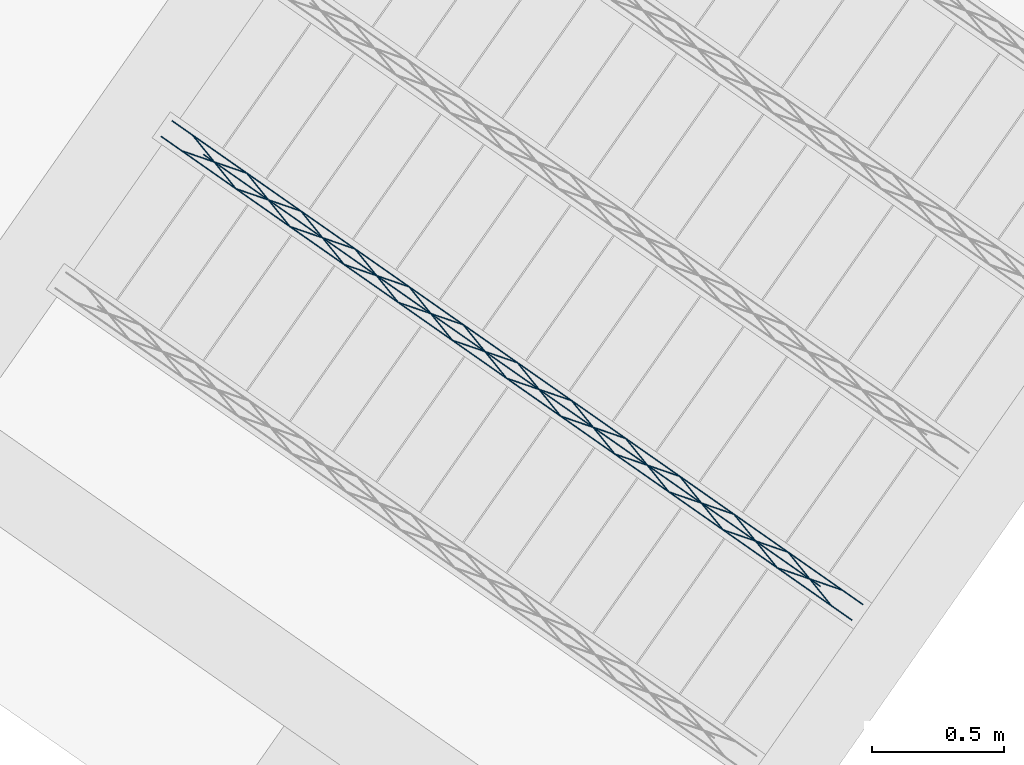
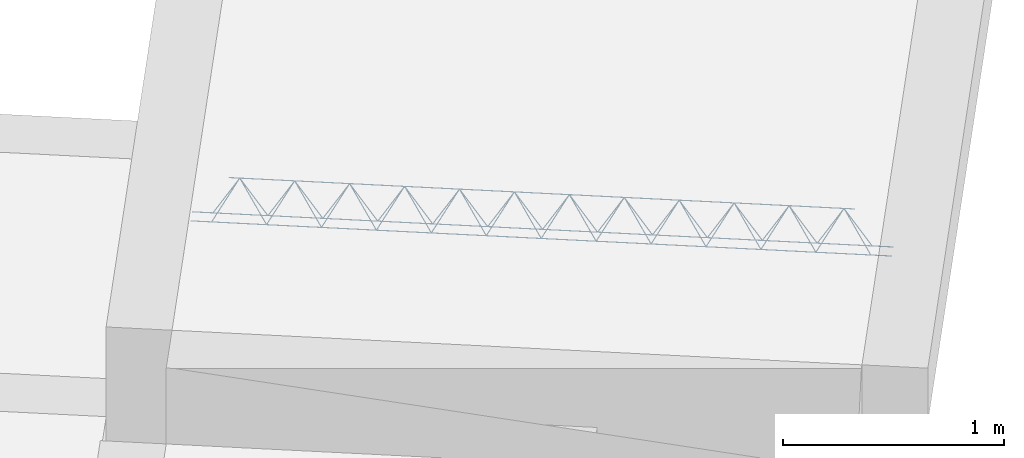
# One storey, part 21 of 46: 1 member.
"""IFC2X3 building model written with IfcOpenShell, lengths in metres."""

from ifc_helpers import new_model, entity, si_unit, converted_unit, derived_unit, direction, frame, origin, origin_2d_with_axis, place, context, subcontext, project, spatial, circle, extrude, type_object, element, save


model = new_model("IFC2X3")

# Units and contexts
model_context = context("Model", 3, precision=1e-05, world=origin(), true_north=direction((6.123031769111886e-17, 1.0)))
body_context = subcontext(model_context, "Body", "Model", "MODEL_VIEW")
ifc_project = project(units=[si_unit("LENGTHUNIT", "METRE"), si_unit("AREAUNIT", "SQUARE_METRE"), si_unit("VOLUMEUNIT", "CUBIC_METRE"), converted_unit("PLANEANGLEUNIT", "DEGREE", entity("IfcPlaneAngleMeasure", 0.017453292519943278), si_unit("PLANEANGLEUNIT", "RADIAN"), dimensions=[0, 0, 0, 0, 0, 0, 0]), si_unit("MASSUNIT", "GRAM", prefix="KILO"), derived_unit("MASSDENSITYUNIT", [(si_unit("MASSUNIT", "GRAM", prefix="KILO"), 1), (si_unit("LENGTHUNIT", "METRE"), -3)]), derived_unit("IONCONCENTRATIONUNIT", [(si_unit("MASSUNIT", "GRAM", prefix="KILO"), 1), (si_unit("LENGTHUNIT", "METRE"), -3)]), derived_unit("MOMENTOFINERTIAUNIT", [(si_unit("LENGTHUNIT", "METRE"), 4)]), si_unit("TIMEUNIT", "SECOND"), si_unit("FREQUENCYUNIT", "HERTZ"), si_unit("THERMODYNAMICTEMPERATUREUNIT", "DEGREE_CELSIUS"), derived_unit("THERMALTRANSMITTANCEUNIT", [(si_unit("MASSUNIT", "GRAM", prefix="KILO"), 1), (si_unit("THERMODYNAMICTEMPERATUREUNIT", "KELVIN"), -1), (si_unit("TIMEUNIT", "SECOND"), -3)]), derived_unit("THERMALCONDUCTANCEUNIT", [(si_unit("MASSUNIT", "GRAM", prefix="KILO"), 1), (si_unit("THERMODYNAMICTEMPERATUREUNIT", "KELVIN"), -1), (si_unit("TIMEUNIT", "SECOND"), -3), (si_unit("LENGTHUNIT", "METRE"), 1)]), derived_unit("VOLUMETRICFLOWRATEUNIT", [(si_unit("LENGTHUNIT", "METRE", prefix="DECI"), 3), (si_unit("TIMEUNIT", "SECOND"), -1)]), derived_unit("MASSFLOWRATEUNIT", [(si_unit("MASSUNIT", "GRAM", prefix="KILO"), 1), (si_unit("TIMEUNIT", "SECOND"), -1)]), derived_unit("ROTATIONALFREQUENCYUNIT", [(si_unit("TIMEUNIT", "SECOND"), -1)]), si_unit("ELECTRICCURRENTUNIT", "AMPERE"), si_unit("ELECTRICVOLTAGEUNIT", "VOLT"), si_unit("POWERUNIT", "WATT"), si_unit("FORCEUNIT", "NEWTON", prefix="KILO"), si_unit("ILLUMINANCEUNIT", "LUX"), si_unit("LUMINOUSFLUXUNIT", "LUMEN"), si_unit("LUMINOUSINTENSITYUNIT", "CANDELA"), si_unit("ENERGYUNIT", "JOULE"), derived_unit("USERDEFINED", [(si_unit("MASSUNIT", "GRAM", prefix="KILO"), -1), (si_unit("LENGTHUNIT", "METRE"), -2), (si_unit("TIMEUNIT", "SECOND"), 3), (si_unit("LUMINOUSFLUXUNIT", "LUMEN"), 1)]), derived_unit("USERDEFINED", [(si_unit("MASSUNIT", "GRAM", prefix="KILO"), 1), (si_unit("TIMEUNIT", "SECOND"), -3), (si_unit("LENGTHUNIT", "METRE"), 3), (si_unit("ELECTRICCURRENTUNIT", "AMPERE"), -2)]), derived_unit("SOUNDPOWERUNIT", [(si_unit("MASSUNIT", "GRAM", prefix="KILO"), 1), (si_unit("TIMEUNIT", "SECOND"), -3), (si_unit("LENGTHUNIT", "METRE"), 2)]), derived_unit("SOUNDPRESSUREUNIT", [(si_unit("MASSUNIT", "GRAM", prefix="KILO"), 1), (si_unit("LENGTHUNIT", "METRE"), -1), (si_unit("TIMEUNIT", "SECOND"), -2)]), derived_unit("LINEARVELOCITYUNIT", [(si_unit("LENGTHUNIT", "METRE"), 1), (si_unit("TIMEUNIT", "SECOND"), -1)]), si_unit("PRESSUREUNIT", "PASCAL"), derived_unit("USERDEFINED", [(si_unit("MASSUNIT", "GRAM", prefix="KILO"), 1), (si_unit("LENGTHUNIT", "METRE"), -2), (si_unit("TIMEUNIT", "SECOND"), -2)]), derived_unit("LINEARFORCEUNIT", [(si_unit("MASSUNIT", "GRAM", prefix="KILO"), 1), (si_unit("TIMEUNIT", "SECOND"), -2)]), derived_unit("PLANARFORCEUNIT", [(si_unit("MASSUNIT", "GRAM", prefix="KILO"), 1), (si_unit("LENGTHUNIT", "METRE"), -1), (si_unit("TIMEUNIT", "SECOND"), -2)]), derived_unit("SPECIFICHEATCAPACITYUNIT", [(si_unit("THERMODYNAMICTEMPERATUREUNIT", "KELVIN"), -1), (si_unit("LENGTHUNIT", "METRE"), 2), (si_unit("TIMEUNIT", "SECOND"), -2)]), derived_unit("HEATFLUXDENSITYUNIT", [(si_unit("MASSUNIT", "GRAM", prefix="KILO"), 1), (si_unit("TIMEUNIT", "SECOND"), -3)]), derived_unit("HEATINGVALUEUNIT", [(si_unit("LENGTHUNIT", "METRE"), 2), (si_unit("TIMEUNIT", "SECOND"), -2)]), derived_unit("VAPORPERMEABILITYUNIT", [(si_unit("LENGTHUNIT", "METRE"), -1), (si_unit("TIMEUNIT", "SECOND"), 1)]), derived_unit("DYNAMICVISCOSITYUNIT", [(si_unit("MASSUNIT", "GRAM", prefix="KILO"), 1), (si_unit("TIMEUNIT", "SECOND"), -1), (si_unit("LENGTHUNIT", "METRE"), -1)]), derived_unit("THERMALEXPANSIONCOEFFICIENTUNIT", [(si_unit("THERMODYNAMICTEMPERATUREUNIT", "KELVIN"), -1)]), derived_unit("MODULUSOFELASTICITYUNIT", [(si_unit("MASSUNIT", "GRAM", prefix="KILO"), 1), (si_unit("LENGTHUNIT", "METRE"), -1), (si_unit("TIMEUNIT", "SECOND"), -2)]), derived_unit("ISOTHERMALMOISTURECAPACITYUNIT", [(si_unit("MASSUNIT", "GRAM", prefix="KILO"), -1), (si_unit("LENGTHUNIT", "METRE"), 3)]), derived_unit("MOISTUREDIFFUSIVITYUNIT", [(si_unit("TIMEUNIT", "SECOND"), -1), (si_unit("LENGTHUNIT", "METRE"), 2)]), derived_unit("MASSPERLENGTHUNIT", [(si_unit("MASSUNIT", "GRAM", prefix="KILO"), 1), (si_unit("LENGTHUNIT", "METRE"), -1)]), derived_unit("THERMALRESISTANCEUNIT", [(si_unit("MASSUNIT", "GRAM", prefix="KILO"), -1), (si_unit("TIMEUNIT", "SECOND"), 3), (si_unit("THERMODYNAMICTEMPERATUREUNIT", "KELVIN"), 1)]), derived_unit("ACCELERATIONUNIT", [(si_unit("LENGTHUNIT", "METRE"), 1), (si_unit("TIMEUNIT", "SECOND"), -2)]), derived_unit("ANGULARVELOCITYUNIT", [(si_unit("TIMEUNIT", "SECOND"), -1), (si_unit("PLANEANGLEUNIT", "RADIAN"), 1)]), derived_unit("LINEARSTIFFNESSUNIT", [(si_unit("MASSUNIT", "GRAM", prefix="KILO"), 1), (si_unit("TIMEUNIT", "SECOND"), -2)]), derived_unit("WARPINGCONSTANTUNIT", [(si_unit("LENGTHUNIT", "METRE"), 6)]), derived_unit("LINEARMOMENTUNIT", [(si_unit("MASSUNIT", "GRAM", prefix="KILO"), 1), (si_unit("LENGTHUNIT", "METRE"), 1), (si_unit("TIMEUNIT", "SECOND"), -2)]), derived_unit("TORQUEUNIT", [(si_unit("MASSUNIT", "GRAM", prefix="KILO"), 1), (si_unit("LENGTHUNIT", "METRE"), 2), (si_unit("TIMEUNIT", "SECOND"), -2)])], contexts=[model_context])

# Site, building, storey
site_placement = place(None, origin())
site = spatial("IfcSite", under=ifc_project, at=site_placement, Name="Default", CompositionType="ELEMENT")
building_placement = place(site_placement, origin())
building = spatial("IfcBuilding", under=site, at=building_placement, CompositionType="ELEMENT")
storey_placement = place(building_placement, frame((0.0, 0.0, 99.52000000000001)))
storey = spatial("IfcBuildingStorey", under=building, at=storey_placement, Name="F1", CompositionType="ELEMENT", Elevation=99.52000000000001)

# Member
member_type = type_object("IfcMemberType", Name="Celosía (Vigueta 2 - Paño 3)", PredefinedType="NOTDEFINED")
member_placement = place(storey_placement, origin())
element("IfcMember", 1, at=member_placement, inside=storey, type_object=member_type, Name="Celosía (Vigueta 2 - Paño 3)", context=body_context, shape_type="SweptSolid", body=[
    extrude(circle(Radius=0.0025, at=origin_2d_with_axis()), frame((10.878486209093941, 5.340447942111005, 0.22500000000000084), z_axis=(0.8191520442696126, -0.5735764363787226, 0.0), x_axis=(-0.5735764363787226, -0.8191520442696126, 0.0)), (0.0, 0.0, 1.0), 3.191999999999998),
    extrude(circle(Radius=0.0025, at=origin_2d_with_axis()), frame((13.373793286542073, 3.637163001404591, 0.4500000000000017), z_axis=(-0.8191520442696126, 0.5735764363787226, 0.0), x_axis=(-0.5735764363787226, -0.8191520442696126, 0.0)), (0.0, 0.0, 1.0), 2.8499999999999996),
    extrude(circle(Radius=0.0025, at=origin_2d_with_axis()), frame((13.41458093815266, 3.564655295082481, 0.22500000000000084), z_axis=(-0.3145304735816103, 0.389334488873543, 0.8657304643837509), x_axis=(-0.7778747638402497, -0.6284193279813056, 0.0)), (0.0, 0.0, 1.0), 0.2598961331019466),
    extrude(circle(Radius=0.0025, at=origin_2d_with_axis()), frame((13.209792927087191, 3.7080494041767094, 0.22499999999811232), z_axis=(0.47343050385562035, -0.1624017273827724, 0.8657304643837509), x_axis=(-0.3244721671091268, -0.9458952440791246, 0.0)), (0.0, 0.0, 1.0), 0.25989613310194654),
    extrude(circle(Radius=0.0025, at=origin_2d_with_axis()), frame((13.209792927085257, 3.708049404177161, 0.22500000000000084), z_axis=(-0.3145304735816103, 0.389334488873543, 0.8657304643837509), x_axis=(-0.7778747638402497, -0.6284193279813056, 0.0)), (0.0, 0.0, 1.0), 0.2598961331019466),
    extrude(circle(Radius=0.0025, at=origin_2d_with_axis()), frame((13.00500491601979, 3.85144351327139, 0.22499999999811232), z_axis=(0.47343050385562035, -0.1624017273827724, 0.8657304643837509), x_axis=(-0.3244721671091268, -0.9458952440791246, 0.0)), (0.0, 0.0, 1.0), 0.25989613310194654),
    extrude(circle(Radius=0.0025, at=origin_2d_with_axis()), frame((13.005004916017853, 3.8514435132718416, 0.22500000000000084), z_axis=(-0.3145304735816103, 0.389334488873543, 0.8657304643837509), x_axis=(-0.7778747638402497, -0.6284193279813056, 0.0)), (0.0, 0.0, 1.0), 0.2598961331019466),
    extrude(circle(Radius=0.0025, at=origin_2d_with_axis()), frame((12.800216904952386, 3.9948376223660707, 0.22499999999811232), z_axis=(0.47343050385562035, -0.1624017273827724, 0.8657304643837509), x_axis=(-0.3244721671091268, -0.9458952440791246, 0.0)), (0.0, 0.0, 1.0), 0.25989613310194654),
    extrude(circle(Radius=0.0025, at=origin_2d_with_axis()), frame((12.800216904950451, 3.9948376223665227, 0.22500000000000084), z_axis=(-0.3145304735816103, 0.389334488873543, 0.8657304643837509), x_axis=(-0.7778747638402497, -0.6284193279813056, 0.0)), (0.0, 0.0, 1.0), 0.2598961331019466),
    extrude(circle(Radius=0.0025, at=origin_2d_with_axis()), frame((12.59542889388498, 4.138231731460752, 0.22499999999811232), z_axis=(0.47343050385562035, -0.1624017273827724, 0.8657304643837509), x_axis=(-0.3244721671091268, -0.9458952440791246, 0.0)), (0.0, 0.0, 1.0), 0.25989613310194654),
    extrude(circle(Radius=0.0025, at=origin_2d_with_axis()), frame((12.595428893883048, 4.138231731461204, 0.22500000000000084), z_axis=(-0.3145304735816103, 0.389334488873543, 0.8657304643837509), x_axis=(-0.7778747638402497, -0.6284193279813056, 0.0)), (0.0, 0.0, 1.0), 0.2598961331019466),
    extrude(circle(Radius=0.0025, at=origin_2d_with_axis()), frame((12.390640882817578, 4.281625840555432, 0.22499999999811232), z_axis=(0.47343050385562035, -0.1624017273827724, 0.8657304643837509), x_axis=(-0.3244721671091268, -0.9458952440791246, 0.0)), (0.0, 0.0, 1.0), 0.25989613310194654),
    extrude(circle(Radius=0.0025, at=origin_2d_with_axis()), frame((12.390640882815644, 4.281625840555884, 0.22500000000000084), z_axis=(-0.3145304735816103, 0.389334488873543, 0.8657304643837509), x_axis=(-0.7778747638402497, -0.6284193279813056, 0.0)), (0.0, 0.0, 1.0), 0.2598961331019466),
    extrude(circle(Radius=0.0025, at=origin_2d_with_axis()), frame((12.185852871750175, 4.425019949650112, 0.22499999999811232), z_axis=(0.47343050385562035, -0.1624017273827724, 0.8657304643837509), x_axis=(-0.3244721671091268, -0.9458952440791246, 0.0)), (0.0, 0.0, 1.0), 0.25989613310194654),
    extrude(circle(Radius=0.0025, at=origin_2d_with_axis()), frame((12.185852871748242, 4.425019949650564, 0.22500000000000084), z_axis=(-0.3145304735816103, 0.389334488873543, 0.8657304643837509), x_axis=(-0.7778747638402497, -0.6284193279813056, 0.0)), (0.0, 0.0, 1.0), 0.2598961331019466),
    extrude(circle(Radius=0.0025, at=origin_2d_with_axis()), frame((11.981064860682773, 4.568414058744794, 0.22499999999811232), z_axis=(0.47343050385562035, -0.1624017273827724, 0.8657304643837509), x_axis=(-0.3244721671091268, -0.9458952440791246, 0.0)), (0.0, 0.0, 1.0), 0.25989613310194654),
    extrude(circle(Radius=0.0025, at=origin_2d_with_axis()), frame((11.981064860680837, 4.568414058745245, 0.22500000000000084), z_axis=(-0.3145304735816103, 0.389334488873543, 0.8657304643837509), x_axis=(-0.7778747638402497, -0.6284193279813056, 0.0)), (0.0, 0.0, 1.0), 0.2598961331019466),
    extrude(circle(Radius=0.0025, at=origin_2d_with_axis()), frame((11.77627684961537, 4.711808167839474, 0.22499999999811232), z_axis=(0.47343050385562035, -0.1624017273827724, 0.8657304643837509), x_axis=(-0.3244721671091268, -0.9458952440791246, 0.0)), (0.0, 0.0, 1.0), 0.25989613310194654),
    extrude(circle(Radius=0.0025, at=origin_2d_with_axis()), frame((11.776276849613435, 4.7118081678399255, 0.22500000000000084), z_axis=(-0.3145304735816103, 0.389334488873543, 0.8657304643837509), x_axis=(-0.7778747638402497, -0.6284193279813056, 0.0)), (0.0, 0.0, 1.0), 0.2598961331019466),
    extrude(circle(Radius=0.0025, at=origin_2d_with_axis()), frame((11.571488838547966, 4.855202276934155, 0.22499999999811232), z_axis=(0.47343050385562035, -0.1624017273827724, 0.8657304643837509), x_axis=(-0.3244721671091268, -0.9458952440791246, 0.0)), (0.0, 0.0, 1.0), 0.25989613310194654),
    extrude(circle(Radius=0.0025, at=origin_2d_with_axis()), frame((11.571488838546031, 4.855202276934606, 0.22500000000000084), z_axis=(-0.3145304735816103, 0.389334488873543, 0.8657304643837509), x_axis=(-0.7778747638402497, -0.6284193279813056, 0.0)), (0.0, 0.0, 1.0), 0.2598961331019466),
    extrude(circle(Radius=0.0025, at=origin_2d_with_axis()), frame((11.366700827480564, 4.998596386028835, 0.22499999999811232), z_axis=(0.47343050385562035, -0.1624017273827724, 0.8657304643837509), x_axis=(-0.3244721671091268, -0.9458952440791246, 0.0)), (0.0, 0.0, 1.0), 0.25989613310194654),
    extrude(circle(Radius=0.0025, at=origin_2d_with_axis()), frame((11.366700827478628, 4.998596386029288, 0.22500000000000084), z_axis=(-0.3145304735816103, 0.389334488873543, 0.8657304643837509), x_axis=(-0.7778747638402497, -0.6284193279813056, 0.0)), (0.0, 0.0, 1.0), 0.2598961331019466),
    extrude(circle(Radius=0.0025, at=origin_2d_with_axis()), frame((11.16191281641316, 5.141990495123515, 0.22499999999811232), z_axis=(0.47343050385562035, -0.1624017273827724, 0.8657304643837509), x_axis=(-0.3244721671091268, -0.9458952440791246, 0.0)), (0.0, 0.0, 1.0), 0.25989613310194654),
    extrude(circle(Radius=0.0025, at=origin_2d_with_axis()), frame((11.161912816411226, 5.141990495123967, 0.22500000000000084), z_axis=(-0.3145304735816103, 0.389334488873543, 0.8657304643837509), x_axis=(-0.7778747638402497, -0.6284193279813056, 0.0)), (0.0, 0.0, 1.0), 0.2598961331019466),
    extrude(circle(Radius=0.0025, at=origin_2d_with_axis()), frame((10.957124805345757, 5.285384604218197, 0.22499999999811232), z_axis=(0.47343050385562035, -0.1624017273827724, 0.8657304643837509), x_axis=(-0.3244721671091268, -0.9458952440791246, 0.0)), (0.0, 0.0, 1.0), 0.25989613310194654),
    extrude(circle(Radius=0.0025, at=origin_2d_with_axis()), frame((10.919783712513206, 5.399426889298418, 0.22500000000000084), z_axis=(0.8191520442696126, -0.5735764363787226, 0.0), x_axis=(-0.5735764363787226, -0.8191520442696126, 0.0)), (0.0, 0.0, 1.0), 3.1920000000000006),
    extrude(circle(Radius=0.0025, at=origin_2d_with_axis()), frame((13.455878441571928, 3.6236342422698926, 0.22500000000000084), z_axis=(-0.47343050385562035, 0.1624017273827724, 0.8657304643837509), x_axis=(-0.3244721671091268, -0.9458952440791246, 0.0)), (0.0, 0.0, 1.0), 0.25989613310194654),
    extrude(circle(Radius=0.0025, at=origin_2d_with_axis()), frame((13.251090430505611, 3.767028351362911, 0.22499999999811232), z_axis=(0.3145304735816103, -0.389334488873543, 0.8657304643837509), x_axis=(-0.7778747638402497, -0.6284193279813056, 0.0)), (0.0, 0.0, 1.0), 0.2598961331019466),
    extrude(circle(Radius=0.0025, at=origin_2d_with_axis()), frame((13.251090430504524, 3.767028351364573, 0.22500000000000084), z_axis=(-0.47343050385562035, 0.1624017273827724, 0.8657304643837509), x_axis=(-0.3244721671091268, -0.9458952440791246, 0.0)), (0.0, 0.0, 1.0), 0.25989613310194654),
    extrude(circle(Radius=0.0025, at=origin_2d_with_axis()), frame((13.04630241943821, 3.910422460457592, 0.22499999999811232), z_axis=(0.3145304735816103, -0.389334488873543, 0.8657304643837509), x_axis=(-0.7778747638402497, -0.6284193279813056, 0.0)), (0.0, 0.0, 1.0), 0.2598961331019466),
    extrude(circle(Radius=0.0025, at=origin_2d_with_axis()), frame((13.04630241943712, 3.910422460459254, 0.22500000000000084), z_axis=(-0.47343050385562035, 0.1624017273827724, 0.8657304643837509), x_axis=(-0.3244721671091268, -0.9458952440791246, 0.0)), (0.0, 0.0, 1.0), 0.25989613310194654),
    extrude(circle(Radius=0.0025, at=origin_2d_with_axis()), frame((12.841514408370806, 4.053816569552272, 0.22499999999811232), z_axis=(0.3145304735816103, -0.389334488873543, 0.8657304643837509), x_axis=(-0.7778747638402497, -0.6284193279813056, 0.0)), (0.0, 0.0, 1.0), 0.2598961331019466),
    extrude(circle(Radius=0.0025, at=origin_2d_with_axis()), frame((12.841514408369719, 4.053816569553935, 0.22500000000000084), z_axis=(-0.47343050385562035, 0.1624017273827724, 0.8657304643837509), x_axis=(-0.3244721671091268, -0.9458952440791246, 0.0)), (0.0, 0.0, 1.0), 0.25989613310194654),
    extrude(circle(Radius=0.0025, at=origin_2d_with_axis()), frame((12.636726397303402, 4.197210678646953, 0.22499999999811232), z_axis=(0.3145304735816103, -0.389334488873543, 0.8657304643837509), x_axis=(-0.7778747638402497, -0.6284193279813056, 0.0)), (0.0, 0.0, 1.0), 0.2598961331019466),
    extrude(circle(Radius=0.0025, at=origin_2d_with_axis()), frame((12.636726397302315, 4.197210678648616, 0.22500000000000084), z_axis=(-0.47343050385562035, 0.1624017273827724, 0.8657304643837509), x_axis=(-0.3244721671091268, -0.9458952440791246, 0.0)), (0.0, 0.0, 1.0), 0.25989613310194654),
    extrude(circle(Radius=0.0025, at=origin_2d_with_axis()), frame((12.431938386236, 4.3406047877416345, 0.22499999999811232), z_axis=(0.3145304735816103, -0.389334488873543, 0.8657304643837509), x_axis=(-0.7778747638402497, -0.6284193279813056, 0.0)), (0.0, 0.0, 1.0), 0.2598961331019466),
    extrude(circle(Radius=0.0025, at=origin_2d_with_axis()), frame((12.431938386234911, 4.340604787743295, 0.22500000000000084), z_axis=(-0.47343050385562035, 0.1624017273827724, 0.8657304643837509), x_axis=(-0.3244721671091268, -0.9458952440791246, 0.0)), (0.0, 0.0, 1.0), 0.25989613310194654),
    extrude(circle(Radius=0.0025, at=origin_2d_with_axis()), frame((12.227150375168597, 4.483998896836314, 0.22499999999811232), z_axis=(0.3145304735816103, -0.389334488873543, 0.8657304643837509), x_axis=(-0.7778747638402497, -0.6284193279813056, 0.0)), (0.0, 0.0, 1.0), 0.2598961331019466),
    extrude(circle(Radius=0.0025, at=origin_2d_with_axis()), frame((12.22715037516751, 4.483998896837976, 0.22500000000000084), z_axis=(-0.47343050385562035, 0.1624017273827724, 0.8657304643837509), x_axis=(-0.3244721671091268, -0.9458952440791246, 0.0)), (0.0, 0.0, 1.0), 0.25989613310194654),
    extrude(circle(Radius=0.0025, at=origin_2d_with_axis()), frame((12.022362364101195, 4.627393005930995, 0.22499999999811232), z_axis=(0.3145304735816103, -0.389334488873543, 0.8657304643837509), x_axis=(-0.7778747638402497, -0.6284193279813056, 0.0)), (0.0, 0.0, 1.0), 0.2598961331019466),
    extrude(circle(Radius=0.0025, at=origin_2d_with_axis()), frame((12.022362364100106, 4.627393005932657, 0.22500000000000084), z_axis=(-0.47343050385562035, 0.1624017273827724, 0.8657304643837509), x_axis=(-0.3244721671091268, -0.9458952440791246, 0.0)), (0.0, 0.0, 1.0), 0.25989613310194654),
    extrude(circle(Radius=0.0025, at=origin_2d_with_axis()), frame((11.817574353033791, 4.770787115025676, 0.22499999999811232), z_axis=(0.3145304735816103, -0.389334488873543, 0.8657304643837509), x_axis=(-0.7778747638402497, -0.6284193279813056, 0.0)), (0.0, 0.0, 1.0), 0.2598961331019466),
    extrude(circle(Radius=0.0025, at=origin_2d_with_axis()), frame((11.8175743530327, 4.770787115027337, 0.22500000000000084), z_axis=(-0.47343050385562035, 0.1624017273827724, 0.8657304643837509), x_axis=(-0.3244721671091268, -0.9458952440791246, 0.0)), (0.0, 0.0, 1.0), 0.25989613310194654),
    extrude(circle(Radius=0.0025, at=origin_2d_with_axis()), frame((11.612786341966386, 4.914181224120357, 0.22499999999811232), z_axis=(0.3145304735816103, -0.389334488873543, 0.8657304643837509), x_axis=(-0.7778747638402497, -0.6284193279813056, 0.0)), (0.0, 0.0, 1.0), 0.2598961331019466),
    extrude(circle(Radius=0.0025, at=origin_2d_with_axis()), frame((11.612786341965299, 4.914181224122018, 0.22500000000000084), z_axis=(-0.47343050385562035, 0.1624017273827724, 0.8657304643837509), x_axis=(-0.3244721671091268, -0.9458952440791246, 0.0)), (0.0, 0.0, 1.0), 0.25989613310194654),
    extrude(circle(Radius=0.0025, at=origin_2d_with_axis()), frame((11.407998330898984, 5.057575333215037, 0.22499999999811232), z_axis=(0.3145304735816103, -0.389334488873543, 0.8657304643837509), x_axis=(-0.7778747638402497, -0.6284193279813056, 0.0)), (0.0, 0.0, 1.0), 0.2598961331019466),
    extrude(circle(Radius=0.0025, at=origin_2d_with_axis()), frame((11.407998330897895, 5.057575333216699, 0.22500000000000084), z_axis=(-0.47343050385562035, 0.1624017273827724, 0.8657304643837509), x_axis=(-0.3244721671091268, -0.9458952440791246, 0.0)), (0.0, 0.0, 1.0), 0.25989613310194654),
    extrude(circle(Radius=0.0025, at=origin_2d_with_axis()), frame((11.20321031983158, 5.2009694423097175, 0.22499999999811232), z_axis=(0.3145304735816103, -0.389334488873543, 0.8657304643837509), x_axis=(-0.7778747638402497, -0.6284193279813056, 0.0)), (0.0, 0.0, 1.0), 0.2598961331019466),
    extrude(circle(Radius=0.0025, at=origin_2d_with_axis()), frame((11.203210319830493, 5.20096944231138, 0.22500000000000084), z_axis=(-0.47343050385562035, 0.1624017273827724, 0.8657304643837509), x_axis=(-0.3244721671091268, -0.9458952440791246, 0.0)), (0.0, 0.0, 1.0), 0.25989613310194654),
    extrude(circle(Radius=0.0025, at=origin_2d_with_axis()), frame((10.998422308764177, 5.344363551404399, 0.22499999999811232), z_axis=(0.3145304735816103, -0.389334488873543, 0.8657304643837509), x_axis=(-0.7778747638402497, -0.6284193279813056, 0.0)), (0.0, 0.0, 1.0), 0.2598961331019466),
])

save(model, "model.ifc")
